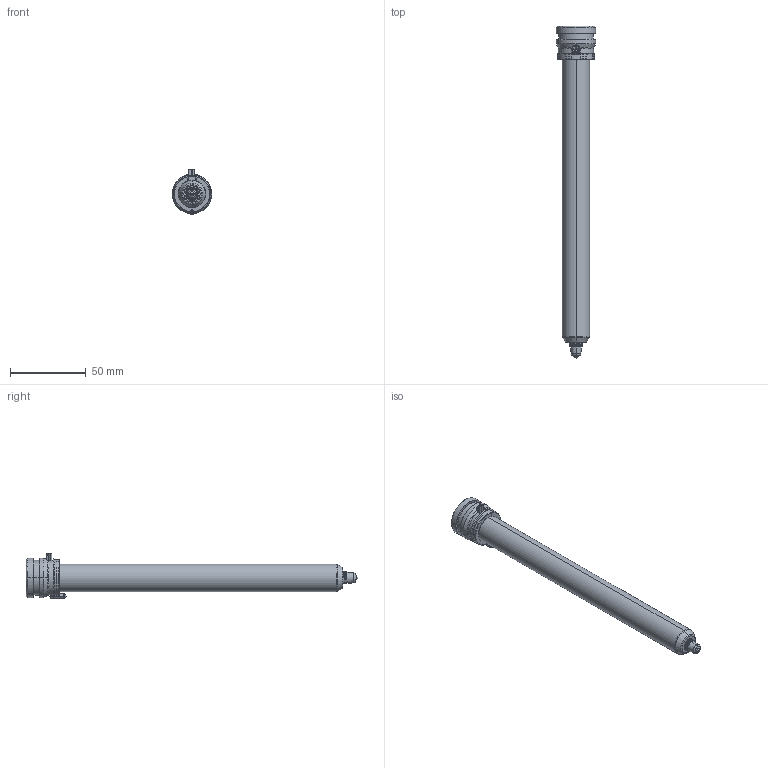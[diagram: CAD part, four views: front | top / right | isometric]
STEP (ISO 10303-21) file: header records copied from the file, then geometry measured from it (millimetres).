
FILE_DESCRIPTION((''),'2;1');
FILE_NAME('TH18201-A-1B50-PK-JG','2023-12-14T',('umhib'),('Thermoplay S.p.A.'),'PRO/ENGINEER BY PARAMETRIC TECHNOLOGY CORPORATION, 2017170','PRO/ENGINEER BY PARAMETRIC TECHNOLOGY CORPORATION, 2017170','');
FILE_SCHEMA(('CONFIG_CONTROL_DESIGN'));
Length unit declared in the file: millimetre
Products named in the file (1): TH18201-A-1B50-PK-JG
Bounding box: 26 x 219 x 29.5 mm (x, y, z)
Volume: 42205.9 mm3; surface area: 30779.8 mm2
Topology: 1 solids, 2 shells, 394 faces, 1026 edges, 637 vertices
Faces by surface type: cylinder 151, plane 85, cone 66, torus 54, bspline 24, sphere 12, extrusion 2
Entity records: 17996 total; most frequent: CARTESIAN_POINT 6173, ORIENTED_EDGE 2028, DIRECTION 2015, EDGE_CURVE 1016, AXIS2_PLACEMENT_3D 808, VERTEX_POINT 637, CIRCLE 439, EDGE_LOOP 414
